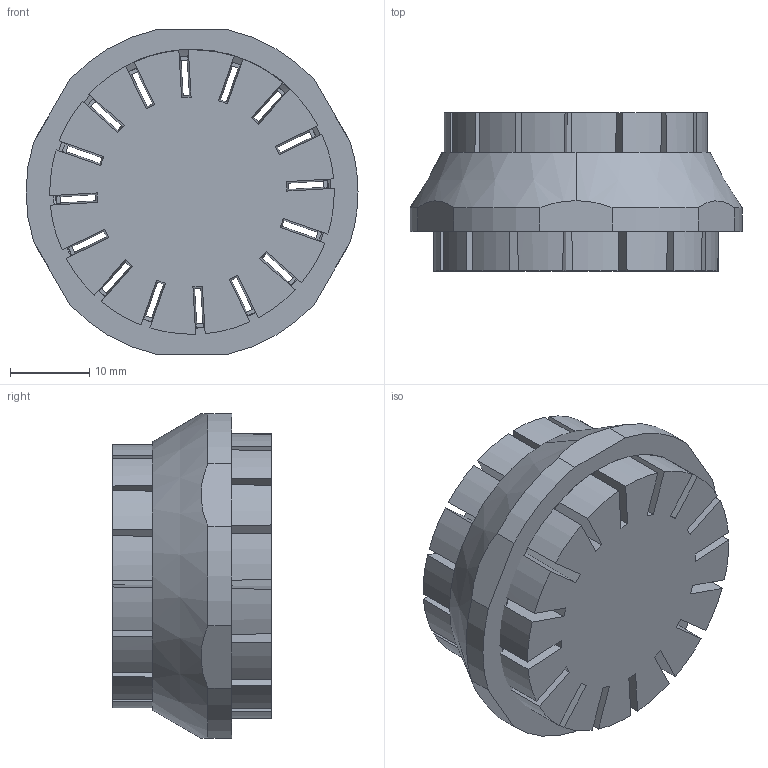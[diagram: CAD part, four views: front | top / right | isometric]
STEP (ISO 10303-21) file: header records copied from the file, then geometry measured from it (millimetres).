
FILE_DESCRIPTION (( 'STEP AP203' ), '1' );
FILE_NAME ('SILVENT_710_LP_STEP.STEP', '2019-11-11T12:57:03', ( '' ), ( '' ), 'SwSTEP 2.0', 'SolidWorks 2016', '' );
FILE_SCHEMA (( 'CONFIG_CONTROL_DESIGN' ));
Length unit declared in the file: millimetre
Products named in the file (6): Propp 710; SILVENT_710_LP_STEP; Hölje LP 710-715L
Assembly tree (3 placements, depth 2):
  SILVENT_710_LP_STEP
    Hölje LP 710-715L
    Propp 710
  Hölje LP 710-715L
  SILVENT_710_LP_STEP
    Propp 710
Bounding box: 42 x 20 x 41 mm (x, y, z)
Volume: 20050 mm3; surface area: 10555.5 mm2
Topology: 2 solids, 2 shells, 140 faces, 398 edges, 266 vertices
Faces by surface type: plane 78, cylinder 58, cone 2, bspline 2
Entity records: 5749 total; most frequent: CARTESIAN_POINT 1719, ORIENTED_EDGE 794, DIRECTION 693, EDGE_CURVE 397, VERTEX_POINT 264, AXIS2_PLACEMENT_3D 245, VECTOR 203, LINE 203
